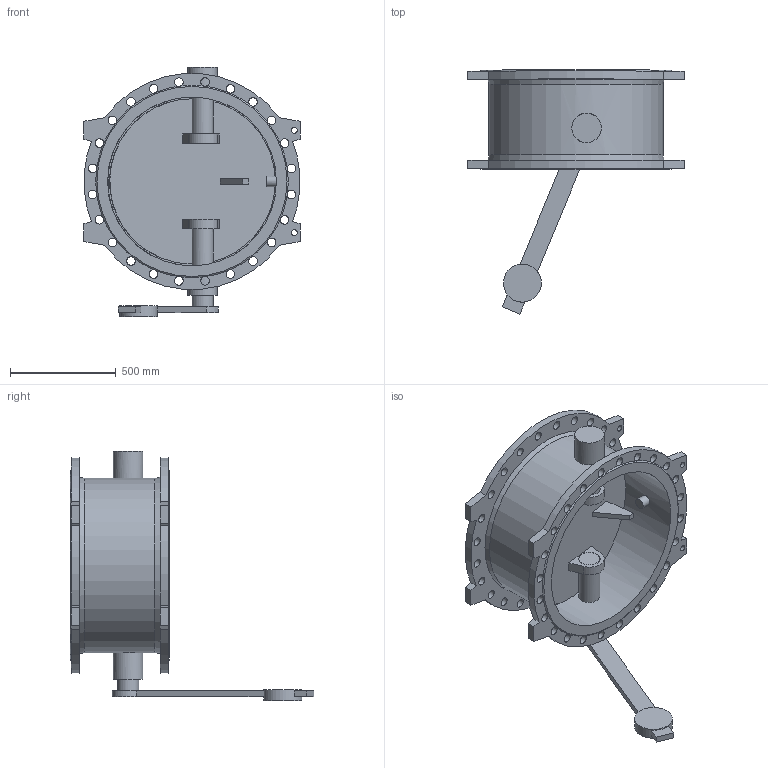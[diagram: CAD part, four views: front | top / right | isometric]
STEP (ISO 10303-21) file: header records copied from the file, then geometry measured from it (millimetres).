
FILE_DESCRIPTION(('STEP AP203'), '1');
FILE_NAME('Êëàïàí 015F.PV DN800 PN16 ñ ïðîòèâîâåñîì', '', ('UNSPECIFIED'), ('UNSPECIFIED'), 'ASCON STEP Converter 1.6', 'ASCON Math Kernel', '');
FILE_SCHEMA(('CONFIG_CONTROL_DESIGN'));
Length unit declared in the file: millimetre
Bounding box: 1025 x 1155 x 1180 mm (x, y, z)
Volume: 56169039.4 mm3; surface area: 5596125.6 mm2
Topology: 1 solids, 1 shells, 144 faces, 521 edges, 346 vertices
Faces by surface type: cylinder 74, plane 63, cone 4, extrusion 2, bspline 1
Full cylindrical faces by diameter (mm): 28 x4, 41 x48, 50 x1, 100 x3, 102 x2, 140 x2, 180 x1, 800 x1, 826 x1
Entity records: 10179 total; most frequent: CARTESIAN_POINT 4525, DIRECTION 918, ORIENTED_EDGE 894, EDGE_CURVE 447, AXIS2_PLACEMENT_3D 393, VERTEX_POINT 345, EDGE_LOOP 294, CIRCLE 251
